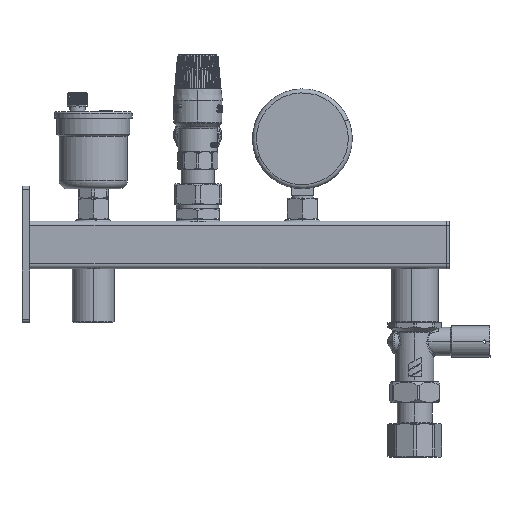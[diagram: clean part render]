
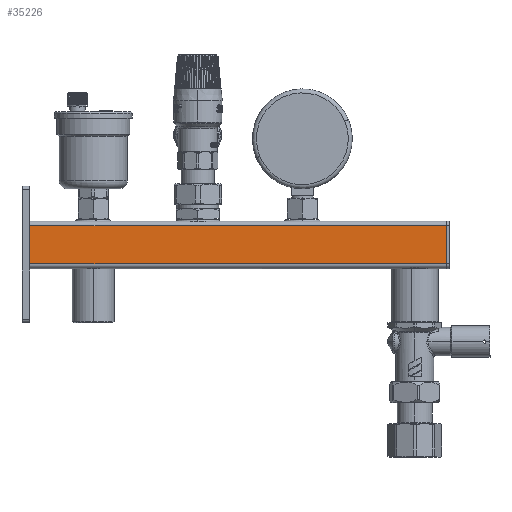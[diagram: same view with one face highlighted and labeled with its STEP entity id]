
A CAD part, top view. The second image highlights one B-rep face of the part: STEP entity #35226.
In plain terms, the highlighted planar face has unit normal (0, 0, 1).
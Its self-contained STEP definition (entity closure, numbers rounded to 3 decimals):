
#1396 = CARTESIAN_POINT ( 'NONE',  ( 73.651, 4.001, 15. ) ) ;
#4343 = LINE ( 'NONE', #12928, #20356 ) ;
#4586 = ORIENTED_EDGE ( 'NONE', *, *, #75504, .F. ) ;
#5960 = DIRECTION ( 'NONE',  ( -1., 0., 0. ) ) ;
#7448 = DIRECTION ( 'NONE',  ( -1., 0., 0. ) ) ;
#10673 = AXIS2_PLACEMENT_3D ( 'NONE', #76715, #41707, #5960 ) ;
#12928 = CARTESIAN_POINT ( 'NONE',  ( -189.349, 28.001, 15. ) ) ;
#14655 = LINE ( 'NONE', #16462, #28629 ) ;
#16462 = CARTESIAN_POINT ( 'NONE',  ( 73.651, 28.001, 15. ) ) ;
#16483 = CARTESIAN_POINT ( 'NONE',  ( -189.349, 28.001, 15. ) ) ;
#16582 = VERTEX_POINT ( 'NONE', #26553 ) ;
#17331 = CARTESIAN_POINT ( 'NONE',  ( -189.349, 4.001, 15. ) ) ;
#20356 = VECTOR ( 'NONE', #60293, 1000. ) ;
#22449 = DIRECTION ( 'NONE',  ( -1., 0., 0. ) ) ;
#23161 = ORIENTED_EDGE ( 'NONE', *, *, #52578, .F. ) ;
#23536 = PLANE ( 'NONE',  #10673 ) ;
#25384 = EDGE_CURVE ( 'NONE', #68714, #62310, #4343, .T. ) ;
#26553 = CARTESIAN_POINT ( 'NONE',  ( 73.651, 4.001, 15. ) ) ;
#26973 = FACE_OUTER_BOUND ( 'NONE', #53080, .T. ) ;
#28629 = VECTOR ( 'NONE', #22449, 1000. ) ;
#35226 = ADVANCED_FACE ( 'NONE', ( #26973 ), #23536, .F. ) ;
#41010 = CARTESIAN_POINT ( 'NONE',  ( 73.651, 28.001, 15. ) ) ;
#41707 = DIRECTION ( 'NONE',  ( 0., 0., -1. ) ) ;
#42351 = VECTOR ( 'NONE', #60545, 1000. ) ;
#49158 = EDGE_CURVE ( 'NONE', #54642, #68714, #14655, .T. ) ;
#52578 = EDGE_CURVE ( 'NONE', #54642, #16582, #57904, .T. ) ;
#53080 = EDGE_LOOP ( 'NONE', ( #64260, #4586, #23161, #54196 ) ) ;
#54196 = ORIENTED_EDGE ( 'NONE', *, *, #49158, .T. ) ;
#54642 = VERTEX_POINT ( 'NONE', #41010 ) ;
#54673 = CARTESIAN_POINT ( 'NONE',  ( 73.651, 28.001, 15. ) ) ;
#57114 = VECTOR ( 'NONE', #7448, 1000. ) ;
#57904 = LINE ( 'NONE', #54673, #42351 ) ;
#60293 = DIRECTION ( 'NONE',  ( 0., -1., 0. ) ) ;
#60545 = DIRECTION ( 'NONE',  ( 0., -1., 0. ) ) ;
#62310 = VERTEX_POINT ( 'NONE', #17331 ) ;
#64260 = ORIENTED_EDGE ( 'NONE', *, *, #25384, .T. ) ;
#68714 = VERTEX_POINT ( 'NONE', #16483 ) ;
#72665 = LINE ( 'NONE', #1396, #57114 ) ;
#75504 = EDGE_CURVE ( 'NONE', #16582, #62310, #72665, .T. ) ;
#76715 = CARTESIAN_POINT ( 'NONE',  ( 73.651, 28.001, 15. ) ) ;
